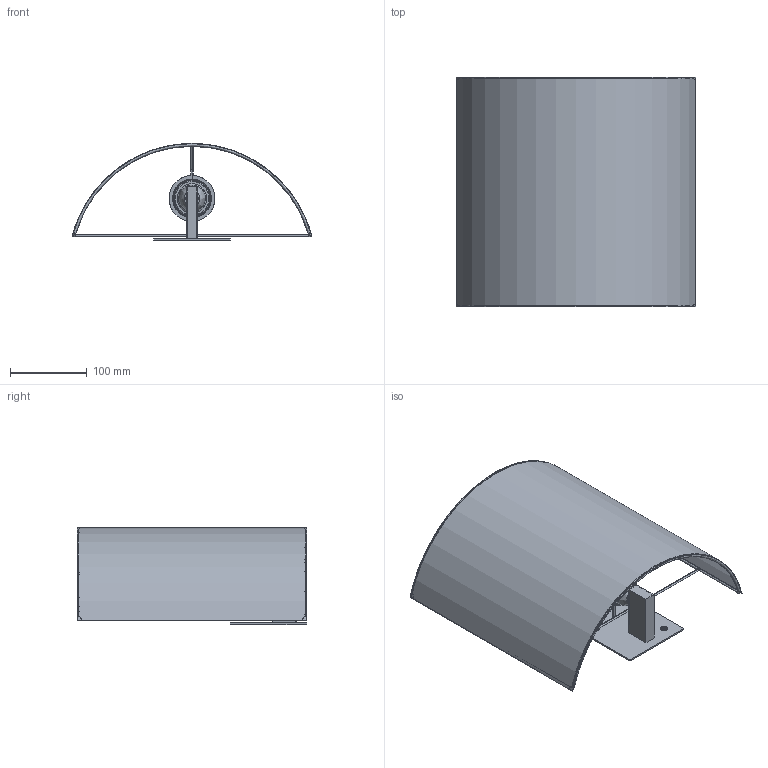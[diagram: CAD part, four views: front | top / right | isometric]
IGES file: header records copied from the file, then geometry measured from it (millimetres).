
Start section: SolidWorks IGES file using analytic representation for surfaces
Global section: file name: C:\SANTACOLE_PDM\Proyectos Catálogo\PROD-P13-029 -- COMODÍN\6_Técnico comercial\3D\Comodin Cuadrada.IGS; native system: SolidWorks 2019; preprocessor: SolidWorks 2019; author: ana.pascual; date: 200402.175038; units: millimetre
Bounding box: 313.42 x 300 x 126.81 mm (x, y, z)
Surface area: 341917.1 mm2 (no closed solid volume)
Topology: 0 solids, 0 shells, 399 faces, 4621 edges, 4621 vertices
Faces by surface type: revolution 242, bspline 157
